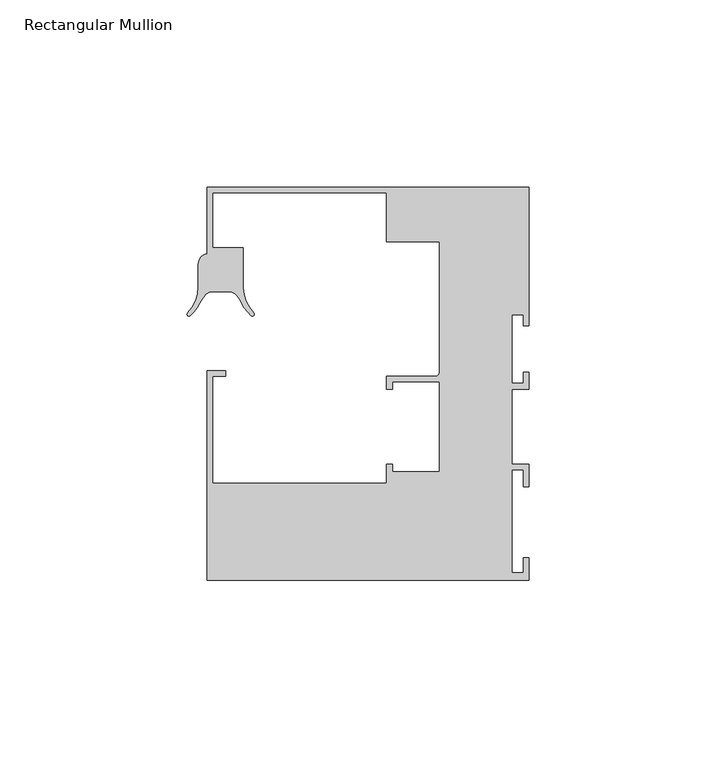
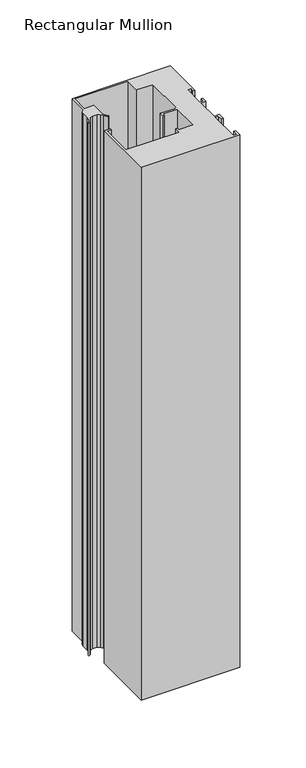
"""IFC4 building model written with IfcOpenShell, lengths in millimetres: member geometry, Rectangular Mullion : Danpal_Airpt_End-Mullion_B1."""

import ifcopenshell
import ifcopenshell.guid

model = None  # the IFC model being written
_history = None  # IfcOwnerHistory: only IFC2X3 demands one
_inside = {}  # id of a spatial element -> (the spatial element, [elements in it])
_under = {}  # id of a project, library or spatial element -> (it, [spatial elements below it])
_declared = {}  # id of a project -> (the project, [libraries it declares])
_typed = {}  # id of a type object -> (the type object, [elements of that type])
_made_of = {}  # id of a material, layer set ... -> (it, [elements and type objects made of it])


def new_model(schema):
    """Start an empty IFC model of exactly this schema.

    Asked for "IFC4X3", IfcOpenShell would pick the latest addendum, in which some entities
    have other attributes; the version numbers below select the first issue.
    IFC2X3 requires an IfcOwnerHistory on every rooted entity: one is made here for all.
    """
    global model, _history
    if schema == "IFC4X3":
        model = ifcopenshell.file(schema_version=(4, 3, 0, 0))
    else:
        model = ifcopenshell.file(schema=schema)
    _inside.clear()
    _under.clear()
    _declared.clear()
    _typed.clear()
    _made_of.clear()
    _history = None
    if model.schema == "IFC2X3":
        org = make("IfcOrganization", Name="unknown")
        user = make(
            "IfcPersonAndOrganization",
            ThePerson=make("IfcPerson", FamilyName="unknown"),
            TheOrganization=org,
        )
        app = make(
            "IfcApplication",
            ApplicationDeveloper=org,
            Version="unknown",
            ApplicationFullName="unknown",
            ApplicationIdentifier="unknown",
        )
        _history = make(
            "IfcOwnerHistory",
            OwningUser=user,
            OwningApplication=app,
            ChangeAction="ADDED",
            CreationDate=0,
        )
    return model


def make(cls, **values):
    """One entity of the class cls with the attributes given. An attribute that is None is left unset."""
    return model.create_entity(
        cls, **{name: value for name, value in values.items() if value is not None}
    )


def rooted(cls, **values):
    """An entity with a GlobalId (a new one), such as an element, a storey or a relation."""
    return make(cls, GlobalId=ifcopenshell.guid.new(), OwnerHistory=_history, **values)


def si_unit(unit_type, name, prefix=None):
    """IfcSIUnit, for example si_unit("LENGTHUNIT", "METRE", prefix="MILLI")."""
    return make("IfcSIUnit", UnitType=unit_type, Prefix=prefix, Name=name)


def assignment(units):
    """IfcUnitAssignment: the units of a project."""
    return None if units is None else make("IfcUnitAssignment", Units=units)


def point(xyz):
    """IfcCartesianPoint."""
    return None if xyz is None else make("IfcCartesianPoint", Coordinates=xyz)


def direction(xyz):
    """IfcDirection."""
    return None if xyz is None else make("IfcDirection", DirectionRatios=xyz)


def frame(location, z_axis=None, x_axis=None):
    """IfcAxis2Placement3D, a coordinate frame: its origin and axes. An axis left out is left unset."""
    return make(
        "IfcAxis2Placement3D",
        Location=point(location),
        Axis=direction(z_axis),
        RefDirection=direction(x_axis),
    )


def frame_2d(location, x_axis=None):
    """IfcAxis2Placement2D, a coordinate frame in the plane: its origin and x axis."""
    return make(
        "IfcAxis2Placement2D", Location=point(location), RefDirection=direction(x_axis)
    )


def origin():
    """The frame at (0, 0, 0) with its axes left unset."""
    return frame((0.0, 0.0, 0.0))


def place(relative_to, where):
    """IfcLocalPlacement: puts the frame where relative to a parent placement (None: the world)."""
    return make(
        "IfcLocalPlacement", PlacementRelTo=relative_to, RelativePlacement=where
    )


def context(
    kind, dimensions, precision=None, world=None, true_north=None, identifier=None
):
    """IfcGeometricRepresentationContext, for example the 3D "Model" context."""
    return make(
        "IfcGeometricRepresentationContext",
        ContextIdentifier=identifier,
        ContextType=kind,
        CoordinateSpaceDimension=dimensions,
        Precision=precision,
        WorldCoordinateSystem=world,
        TrueNorth=true_north,
    )


def project(units=None, contexts=None):
    """IfcProject with its units and contexts."""
    return rooted(
        "IfcProject",
        Name="project",
        RepresentationContexts=contexts,
        UnitsInContext=assignment(units),
    )


def spatial(cls, under=None, at=None, **own):
    """A site, building, storey or space (cls), placed at a placement, below another one or the project."""
    s = rooted(cls, ObjectPlacement=at, **own)
    if under is not None:
        _under.setdefault(under.id(), (under, []))[1].append(s)
    return s


def polyline(points):
    """IfcPolyline through the points."""
    return make("IfcPolyline", Points=[point(p) for p in points])


def circle_curve(where, radius):
    """IfcCircle in the frame where."""
    return make("IfcCircle", Position=where, Radius=radius)


def trimmed(basis, trim1, trim2, sense, master):
    """IfcTrimmedCurve: the piece of a basis curve between two trims."""
    return make(
        "IfcTrimmedCurve",
        BasisCurve=basis,
        Trim1=trim1,
        Trim2=trim2,
        SenseAgreement=sense,
        MasterRepresentation=master,
    )


def segment(curve, same_sense, transition):
    """IfcCompositeCurveSegment."""
    return make(
        "IfcCompositeCurveSegment",
        Transition=transition,
        SameSense=same_sense,
        ParentCurve=curve,
    )


def composite_curve(segments, self_intersect=None):
    """IfcCompositeCurve: segments joined end to end."""
    return make("IfcCompositeCurve", Segments=segments, SelfIntersect=self_intersect)


def outline(outer, holes=None, kind="AREA"):
    """IfcArbitraryClosedProfileDef: a profile drawn as a closed curve; with holes, ...WithVoids."""
    if holes is None:
        return make("IfcArbitraryClosedProfileDef", ProfileType=kind, OuterCurve=outer)
    return make(
        "IfcArbitraryProfileDefWithVoids",
        ProfileType=kind,
        OuterCurve=outer,
        InnerCurves=holes,
    )


def extrude(swept, where, along, depth):
    """IfcExtrudedAreaSolid: the profile swept, set in the frame where, extruded along a direction by depth."""
    return make(
        "IfcExtrudedAreaSolid",
        SweptArea=swept,
        Position=where,
        ExtrudedDirection=direction(along),
        Depth=depth,
    )


def shape(context_of_items, identifier, shape_type, items):
    """IfcShapeRepresentation: the items that make up one representation, for example the "Body"."""
    return make(
        "IfcShapeRepresentation",
        ContextOfItems=context_of_items,
        RepresentationIdentifier=identifier,
        RepresentationType=shape_type,
        Items=items,
    )


def source(mapping_origin, context_of_items, identifier, shape_type, items):
    """IfcRepresentationMap: a shape defined once, which mapped items show again and again."""
    return make(
        "IfcRepresentationMap",
        MappingOrigin=mapping_origin,
        MappedRepresentation=shape(context_of_items, identifier, shape_type, items),
    )


def transform(
    local_origin,
    x_axis=None,
    y_axis=None,
    z_axis=None,
    scale=None,
    scale2=None,
    scale3=None,
    uniform=True,
):
    """IfcCartesianTransformationOperator3D, or its non-uniform kind. x_axis, y_axis, z_axis: its Axis1, 2, 3."""
    if uniform:
        return make(
            "IfcCartesianTransformationOperator3D",
            Axis1=direction(x_axis),
            Axis2=direction(y_axis),
            LocalOrigin=point(local_origin),
            Scale=scale,
            Axis3=direction(z_axis),
        )
    return make(
        "IfcCartesianTransformationOperator3DnonUniform",
        Axis1=direction(x_axis),
        Axis2=direction(y_axis),
        LocalOrigin=point(local_origin),
        Scale=scale,
        Axis3=direction(z_axis),
        Scale2=scale2,
        Scale3=scale3,
    )


def mapped(mapping_source, mapping_target):
    """IfcMappedItem: shows the shape of a source again, moved by a transform."""
    return make(
        "IfcMappedItem", MappingSource=mapping_source, MappingTarget=mapping_target
    )


def made_of(thing, what):
    """Note that an element or type object is made of a material, layer set ...; save() writes the relation."""
    if what is not None:
        _made_of.setdefault(what.id(), (what, []))[1].append(thing)
    return thing


def element(
    cls,
    number,
    at=None,
    inside=None,
    cuts=None,
    type_object=None,
    material=None,
    context=None,
    identifier="Body",
    shape_type=None,
    held_by="IfcProductDefinitionShape",
    body=None,
    shapes=None,
    **own,
):
    """One element of the class cls, such as IfcWall. Its Tag is "e" and its number.

    at: its placement. inside: the storey or other place that contains it. cuts: it is an
    opening in that element (IfcRelVoidsElement). A single representation is given by context,
    identifier, shape_type and body (its items); several are given by shapes. held_by: the class
    of the entity that holds the representations. save() writes the other relations.
    """
    e = rooted(cls, Tag="e%d" % number, ObjectPlacement=at, **own)
    if body is not None:
        shapes = [shape(context, identifier, shape_type, body)]
    if shapes is not None:
        e.Representation = make(held_by, Representations=shapes)
    if inside is not None:
        _inside.setdefault(inside.id(), (inside, []))[1].append(e)
    if cuts is not None:
        rooted(
            "IfcRelVoidsElement", RelatingBuildingElement=cuts, RelatedOpeningElement=e
        )
    if type_object is not None:
        _typed.setdefault(type_object.id(), (type_object, []))[1].append(e)
    return made_of(e, material)


def aggregate(whole, parts):
    """IfcRelAggregates: a whole, such as a stair, and the parts it consists of."""
    return rooted("IfcRelAggregates", RelatingObject=whole, RelatedObjects=parts)


def save(model, path):
    """Write the relations noted so far, then the file.

    IfcRelAggregates (storeys below a building ...), IfcRelContainedInSpatialStructure (elements
    in a storey), IfcRelDefinesByType, IfcRelAssociatesMaterial and IfcRelDeclares: one each for
    every whole, place, type object, material and project.
    """
    for whole, parts in _under.values():
        aggregate(whole, parts)
    for where, things in _inside.values():
        rooted(
            "IfcRelContainedInSpatialStructure",
            RelatedElements=things,
            RelatingStructure=where,
        )
    for kind, things in _typed.values():
        rooted("IfcRelDefinesByType", RelatedObjects=things, RelatingType=kind)
    for what, things in _made_of.values():
        rooted("IfcRelAssociatesMaterial", RelatedObjects=things, RelatingMaterial=what)
    for by, libraries in _declared.values():
        rooted("IfcRelDeclares", RelatingContext=by, RelatedDefinitions=libraries)
    model.write(path)


def rectangular_mullion_074f1e92(model_context):
    return source(origin(), model_context, "Body", "SweptSolid", [
        extrude(outline(composite_curve([segment(polyline([(-84.5, -44.249979), (-38.0, -44.249979), (-38.0, -39.2500001), (-36.4, -39.2500001), (-36.4, -41.2500001), (-23.9180899, -41.2500001), (-23.9180899, -17.2500031), (-36.4180899, -17.2500031), (-36.4180899, -19.2500031), (-38.0180899, -19.2500031), (-38.0180899, -15.7500031), (-24.969716, -15.7500031)]), True, "CONTINUOUS"), segment(trimmed(circle_curve(frame_2d((-24.969716, -14.698377)), 1.0516261), [point((-24.969716, -15.7500031))], [point((-23.9180899, -14.698377))], True, "CARTESIAN"), True, "CONTINUOUS"), segment(polyline([(-23.9180899, -14.698377), (-23.9180899, 20.2499969), (-38.0180899, 20.2499969), (-38.0180899, 33.2499969), (-84.5180945, 33.2499969), (-84.5180945, 18.6499969), (-76.3180945, 18.6499969), (-76.3180945, 7.8643287)]), True, "CONTINUOUS"), segment(trimmed(circle_curve(frame_2d((-66.322244, 8.1523787)), 10.0), [point((-76.3180945, 7.8643287))], [point((-73.5120728, 1.2021009))], True, "CARTESIAN"), True, "CONTINUOUS"), segment(trimmed(circle_curve(frame_2d((-73.8718016, 0.8543575)), 0.5003301), [point((-73.5120728, 1.2021009))], [point((-74.1944462, 0.4719563))], False, "CARTESIAN"), True, "CONTINUOUS"), segment(trimmed(circle_curve(frame_2d((-67.7458114, 8.1149337)), 9.9999997), [point((-74.1944462, 0.4719563))], [point((-76.759944, 3.7853369))], False, "CARTESIAN"), True, "CONTINUOUS"), segment(trimmed(circle_curve(frame_2d((-85.7740768, -0.5442599)), 10.0), [point((-76.759944, 3.7853369))], [point((-77.9898528, 5.7331484))], True, "CARTESIAN"), True, "CONTINUOUS"), segment(trimmed(circle_curve(frame_2d((-80.32512, 3.8499259)), 3.0), [point((-77.9898528, 5.7331484))], [point((-80.32512, 6.8499259))], True, "CARTESIAN"), True, "CONTINUOUS"), segment(polyline([(-80.32512, 6.8499259), (-84.363764, 6.8499259)]), True, "CONTINUOUS"), segment(trimmed(circle_curve(frame_2d((-84.363764, 3.8499259)), 3.0), [point((-84.363764, 6.8499259))], [point((-86.6990305, 5.7331494))], True, "CARTESIAN"), True, "CONTINUOUS"), segment(trimmed(circle_curve(frame_2d((-78.9148092, -0.544262)), 9.9999997), [point((-86.6990305, 5.7331494))], [point((-87.9289412, 3.785336))], True, "CARTESIAN"), True, "CONTINUOUS"), segment(trimmed(circle_curve(frame_2d((-96.9430732, 8.114934)), 9.9999998), [point((-87.9289412, 3.785336))], [point((-90.4970116, 0.4697862))], False, "CARTESIAN"), True, "CONTINUOUS"), segment(trimmed(circle_curve(frame_2d((-90.8194227, 0.8521716)), 0.5001675), [point((-90.4970116, 0.4697862))], [point((-91.1789286, 1.1999114))], False, "CARTESIAN"), True, "CONTINUOUS"), segment(trimmed(circle_curve(frame_2d((-98.3666403, 8.1523787)), 10.0), [point((-91.1789286, 1.1999114))], [point((-88.3666989, 8.1181379))], True, "CARTESIAN"), True, "CONTINUOUS"), segment(polyline([(-88.3666989, 8.1181379), (-88.3666989, 14.1183419)]), True, "CONTINUOUS"), segment(trimmed(circle_curve(frame_2d((-85.366716, 14.1081309)), 3.0000002), [point((-88.3666989, 14.1183419))], [point((-86.0180914, 17.0365625))], False, "CARTESIAN"), True, "CONTINUOUS"), segment(polyline([(-86.0180914, 17.0365625), (-86.0180914, 34.75), (-0.0180922, 34.75), (-0.0180922, -2.25), (-1.5180922, -2.25), (-1.5180922, 0.75), (-4.5180922, 0.75), (-4.5180922, -17.65), (-1.5180922, -17.65), (-1.5180922, -14.65), (-0.0180922, -14.65), (-0.0180922, -19.25), (-4.5, -19.25), (-4.5, -39.2500001), (-0.0180937, -39.2500001), (-0.0180937, -45.2500001), (-1.5180937, -45.2500001), (-1.5180937, -40.7500001), (-4.5, -40.7500001), (-4.5, -68.2500001), (-1.5, -68.2500001), (-1.5, -64.2500001), (0.0, -64.2500001), (0.0, -70.2500001), (-86.0, -70.2500001), (-86.0, -14.2500001), (-81.0, -14.2500001), (-81.0, -15.7500001), (-84.5, -15.7500001), (-84.5, -44.249979)]), True, "CONTINUOUS")], self_intersect=False)), frame((0.0, 0.0, -492.8319078), z_axis=(0.0, 0.0, 1.0), x_axis=(1.0, 0.0, 0.0)), (0.0, 0.0, 1.0), 492.8319078),
    ])


if __name__ == "__main__":
    model = new_model("IFC4")
    model_context = context("Model", 3, world=origin())
    ifc_project = project(units=[si_unit("LENGTHUNIT", "METRE", prefix="MILLI")], contexts=[model_context])
    site = spatial("IfcSite", under=ifc_project)
    building = spatial("IfcBuilding", under=site)
    placement = place(None, origin())
    rectangular_mullion_shape = rectangular_mullion_074f1e92(model_context)
    element("IfcMember", 1, ObjectType="Rectangular Mullion : Danpal_Airpt_End-Mullion_B1", at=placement, inside=building, context=model_context, shape_type="MappedRepresentation", body=[
        mapped(rectangular_mullion_shape, transform((0.0, 0.0, 0.0), x_axis=(1.0, 0.0, 0.0), y_axis=(0.0, 1.0, 0.0), z_axis=(0.0, 0.0, 1.0))),
    ])
    save(model, "model.ifc")
